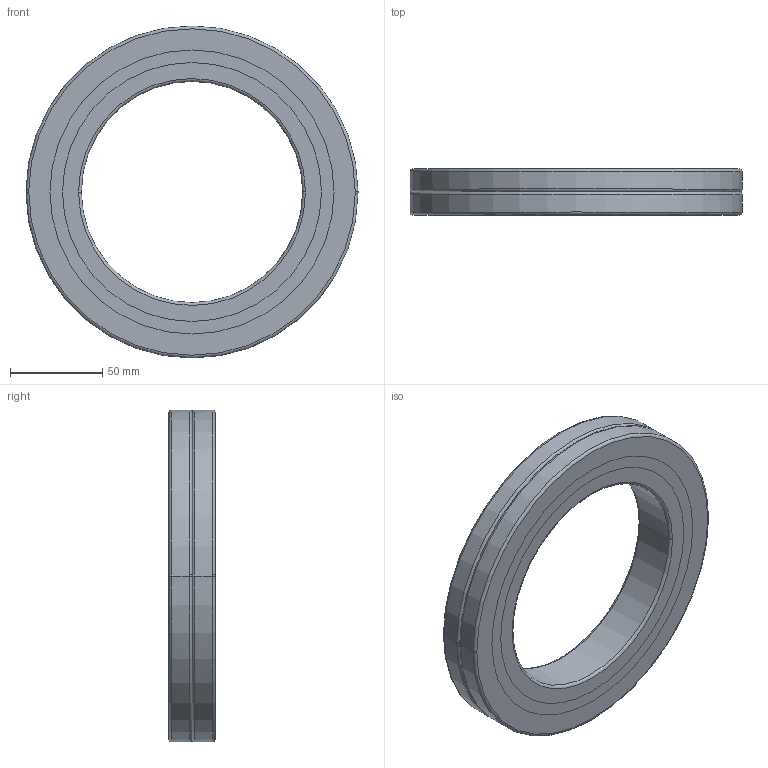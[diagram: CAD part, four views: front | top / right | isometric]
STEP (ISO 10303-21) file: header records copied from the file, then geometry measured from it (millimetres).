
FILE_DESCRIPTION(('no description'),'unknown implementation level');
FILE_NAME('CRBA12025_30.stp',' ',('HIWIN GmbH'),('CADClick - KiM GmbH - www.kimweb.de'),'unknown preprocess','ACIS','unknown authorization');
FILE_SCHEMA(('automotive_design'));
Length unit declared in the file: millimetre
Products named in the file (5): CRBA12025_1; CRBA12025_2; CRBA12025_3; CRBA12025_4; CRBA12025
Bounding box: 180 x 25 x 180 mm (x, y, z)
Volume: 285938.2 mm3; surface area: 96644.3 mm2
Topology: 5 solids, 5 shells, 54 faces, 120 edges, 76 vertices
Faces by surface type: torus 24, cylinder 20, plane 10
Entity records: 3096 total; most frequent: DIRECTION 338, STYLED_ITEM 255, PRESENTATION_STYLE_ASSIGNMENT 255, CARTESIAN_POINT 255, COLOUR_RGB 255, ORIENTED_EDGE 240, AXIS2_PLACEMENT_3D 159, EDGE_CURVE 120
